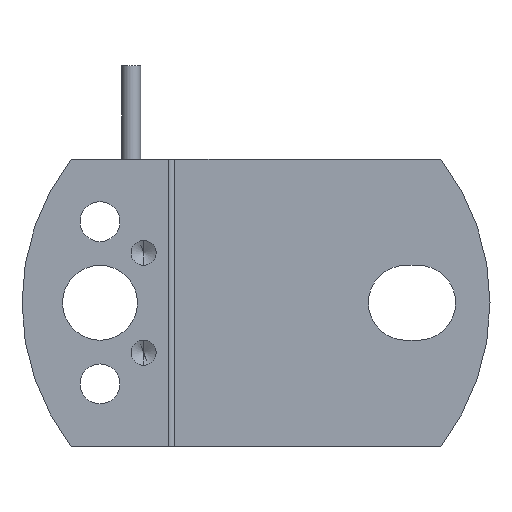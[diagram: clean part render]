
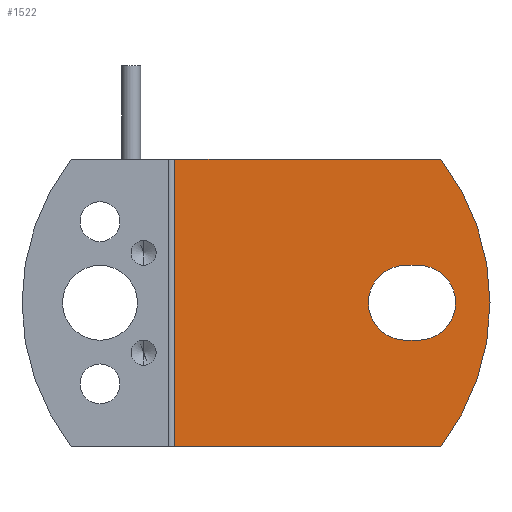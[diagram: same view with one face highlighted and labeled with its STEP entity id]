
A CAD part, front view. The second image highlights one B-rep face of the part: STEP entity #1522.
In plain terms, the highlighted planar face has unit normal (0, -1, 0).
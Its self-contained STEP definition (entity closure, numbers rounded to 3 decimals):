
#2 = ORIENTED_EDGE ( 'NONE', *, *, #717, .T. ) ;
#108 = EDGE_CURVE ( 'NONE', #2207, #781, #2454, .T. ) ;
#110 = DIRECTION ( 'NONE',  ( -1., 0., 0. ) ) ;
#145 = VECTOR ( 'NONE', #110, 1000. ) ;
#162 = VERTEX_POINT ( 'NONE', #421 ) ;
#175 = VECTOR ( 'NONE', #884, 1000. ) ;
#201 = EDGE_CURVE ( 'NONE', #744, #1232, #929, .T. ) ;
#219 = EDGE_CURVE ( 'NONE', #1232, #1352, #1909, .T. ) ;
#223 = DIRECTION ( 'NONE',  ( -1., 0., 0. ) ) ;
#276 = CARTESIAN_POINT ( 'NONE',  ( 26., 1., 6. ) ) ;
#346 = EDGE_CURVE ( 'NONE', #1352, #1147, #2720, .T. ) ;
#358 = AXIS2_PLACEMENT_3D ( 'NONE', #2577, #1936, #581 ) ;
#365 = EDGE_LOOP ( 'NONE', ( #2849, #2191, #548, #1426 ) ) ;
#414 = FACE_OUTER_BOUND ( 'NONE', #365, .T. ) ;
#421 = CARTESIAN_POINT ( 'NONE',  ( 18., 1., 0. ) ) ;
#435 = CARTESIAN_POINT ( 'NONE',  ( -13., 1., -23. ) ) ;
#442 = AXIS2_PLACEMENT_3D ( 'NONE', #877, #1776, #223 ) ;
#506 = CARTESIAN_POINT ( 'NONE',  ( 37.5, 1., -23. ) ) ;
#529 = ORIENTED_EDGE ( 'NONE', *, *, #108, .T. ) ;
#539 = CIRCLE ( 'NONE', #358, 6. ) ;
#548 = ORIENTED_EDGE ( 'NONE', *, *, #346, .F. ) ;
#567 = CARTESIAN_POINT ( 'NONE',  ( -13., 1., -23. ) ) ;
#581 = DIRECTION ( 'NONE',  ( -1., 0., 0. ) ) ;
#676 = DIRECTION ( 'NONE',  ( 1., 0., 0. ) ) ;
#708 = CARTESIAN_POINT ( 'NONE',  ( -173.837, 1., 23. ) ) ;
#717 = EDGE_CURVE ( 'NONE', #825, #829, #2407, .T. ) ;
#744 = VERTEX_POINT ( 'NONE', #907 ) ;
#781 = VERTEX_POINT ( 'NONE', #1341 ) ;
#825 = VERTEX_POINT ( 'NONE', #1121 ) ;
#829 = VERTEX_POINT ( 'NONE', #276 ) ;
#877 = CARTESIAN_POINT ( 'NONE',  ( 24., 1., 0. ) ) ;
#884 = DIRECTION ( 'NONE',  ( 1., 0., 0. ) ) ;
#907 = CARTESIAN_POINT ( 'NONE',  ( -13., 1., 23. ) ) ;
#926 = CARTESIAN_POINT ( 'NONE',  ( 29.618, 1., 23. ) ) ;
#929 = LINE ( 'NONE', #708, #175 ) ;
#939 = AXIS2_PLACEMENT_3D ( 'NONE', #1931, #1037, #1479 ) ;
#970 = DIRECTION ( 'NONE',  ( 0., 1., 0. ) ) ;
#1037 = DIRECTION ( 'NONE',  ( 0., 1., 0. ) ) ;
#1081 = CARTESIAN_POINT ( 'NONE',  ( 37.5, 1., 6. ) ) ;
#1121 = CARTESIAN_POINT ( 'NONE',  ( 24., 1., 6. ) ) ;
#1141 = ORIENTED_EDGE ( 'NONE', *, *, #2211, .T. ) ;
#1147 = VERTEX_POINT ( 'NONE', #567 ) ;
#1232 = VERTEX_POINT ( 'NONE', #926 ) ;
#1249 = PLANE ( 'NONE',  #939 ) ;
#1264 = EDGE_CURVE ( 'NONE', #744, #1147, #2435, .T. ) ;
#1334 = CARTESIAN_POINT ( 'NONE',  ( 0., 1., 0. ) ) ;
#1341 = CARTESIAN_POINT ( 'NONE',  ( 24., 1., -6. ) ) ;
#1348 = DIRECTION ( 'NONE',  ( 0., 1., 0. ) ) ;
#1352 = VERTEX_POINT ( 'NONE', #2718 ) ;
#1426 = ORIENTED_EDGE ( 'NONE', *, *, #219, .F. ) ;
#1479 = DIRECTION ( 'NONE',  ( -1., 0., 0. ) ) ;
#1522 = ADVANCED_FACE ( 'NONE', ( #2417, #414 ), #1249, .F. ) ;
#1551 = CARTESIAN_POINT ( 'NONE',  ( 37.5, 1., -6. ) ) ;
#1609 = ORIENTED_EDGE ( 'NONE', *, *, #2365, .T. ) ;
#1712 = VECTOR ( 'NONE', #2034, 1000. ) ;
#1715 = EDGE_LOOP ( 'NONE', ( #529, #1141, #1609, #2, #1789 ) ) ;
#1768 = AXIS2_PLACEMENT_3D ( 'NONE', #1334, #1348, #2017 ) ;
#1776 = DIRECTION ( 'NONE',  ( 0., 1., 0. ) ) ;
#1789 = ORIENTED_EDGE ( 'NONE', *, *, #2525, .T. ) ;
#1881 = CIRCLE ( 'NONE', #442, 6. ) ;
#1909 = CIRCLE ( 'NONE', #1768, 37.5 ) ;
#1931 = CARTESIAN_POINT ( 'NONE',  ( 37.5, 1., -23. ) ) ;
#1936 = DIRECTION ( 'NONE',  ( 0., 1., 0. ) ) ;
#2017 = DIRECTION ( 'NONE',  ( -1., 0., 0. ) ) ;
#2034 = DIRECTION ( 'NONE',  ( -1., 0., 0. ) ) ;
#2127 = VECTOR ( 'NONE', #2225, 1000. ) ;
#2191 = ORIENTED_EDGE ( 'NONE', *, *, #1264, .T. ) ;
#2207 = VERTEX_POINT ( 'NONE', #2399 ) ;
#2211 = EDGE_CURVE ( 'NONE', #781, #162, #1881, .T. ) ;
#2225 = DIRECTION ( 'NONE',  ( 0., 0., -1. ) ) ;
#2272 = DIRECTION ( 'NONE',  ( -1., 0., 0. ) ) ;
#2287 = CARTESIAN_POINT ( 'NONE',  ( 24., 1., 0. ) ) ;
#2365 = EDGE_CURVE ( 'NONE', #162, #825, #2597, .T. ) ;
#2399 = CARTESIAN_POINT ( 'NONE',  ( 26., 1., -6. ) ) ;
#2407 = LINE ( 'NONE', #1081, #2790 ) ;
#2417 = FACE_BOUND ( 'NONE', #1715, .T. ) ;
#2435 = LINE ( 'NONE', #435, #2127 ) ;
#2454 = LINE ( 'NONE', #1551, #1712 ) ;
#2525 = EDGE_CURVE ( 'NONE', #829, #2207, #539, .T. ) ;
#2557 = AXIS2_PLACEMENT_3D ( 'NONE', #2287, #970, #2272 ) ;
#2577 = CARTESIAN_POINT ( 'NONE',  ( 26., 1., 0. ) ) ;
#2597 = CIRCLE ( 'NONE', #2557, 6. ) ;
#2718 = CARTESIAN_POINT ( 'NONE',  ( 29.618, 1., -23. ) ) ;
#2720 = LINE ( 'NONE', #506, #145 ) ;
#2790 = VECTOR ( 'NONE', #676, 1000. ) ;
#2849 = ORIENTED_EDGE ( 'NONE', *, *, #201, .F. ) ;
